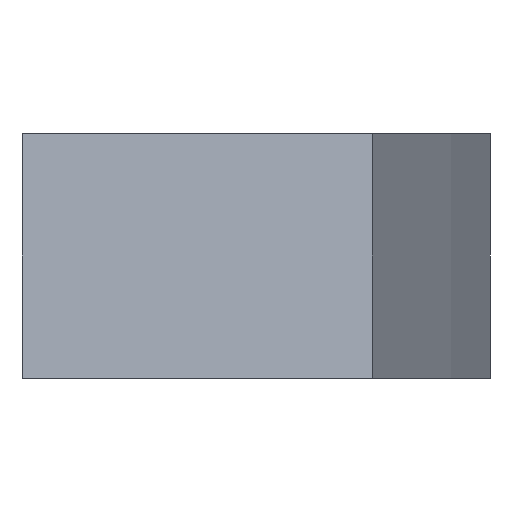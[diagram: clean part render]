
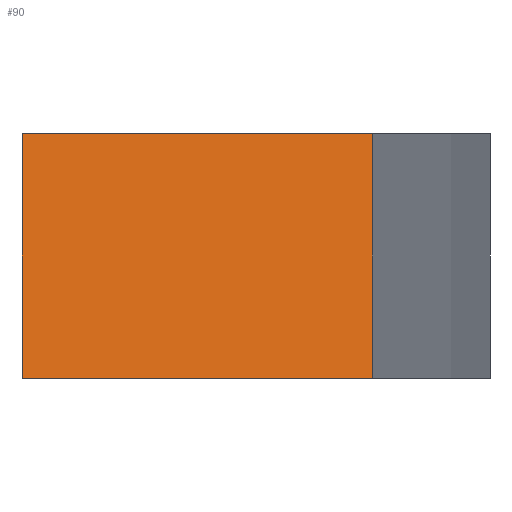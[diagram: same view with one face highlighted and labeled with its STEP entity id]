
A CAD part, left-side view. The second image highlights one B-rep face of the part: STEP entity #90.
In plain terms, the highlighted planar face has unit normal (-0.957, -0.291, 0).
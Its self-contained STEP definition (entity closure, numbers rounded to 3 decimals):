
#90 = ADVANCED_FACE( '', ( #126 ), #127, .T. );
#126 = FACE_OUTER_BOUND( '', #164, .T. );
#127 = PLANE( '', #165 );
#164 = EDGE_LOOP( '', ( #275, #276, #277, #278 ) );
#165 = AXIS2_PLACEMENT_3D( '', #279, #280, #281 );
#275 = ORIENTED_EDGE( '', *, *, #348, .T. );
#276 = ORIENTED_EDGE( '', *, *, #323, .F. );
#277 = ORIENTED_EDGE( '', *, *, #349, .F. );
#278 = ORIENTED_EDGE( '', *, *, #346, .T. );
#279 = CARTESIAN_POINT( '', ( -25., 0., 7.5 ) );
#280 = DIRECTION( '', ( -0.957, -0.291, 0. ) );
#281 = DIRECTION( '', ( -0.291, 0.957, 0. ) );
#323 = EDGE_CURVE( '', #375, #370, #377, .T. );
#346 = EDGE_CURVE( '', #415, #413, #416, .T. );
#348 = EDGE_CURVE( '', #413, #370, #418, .T. );
#349 = EDGE_CURVE( '', #415, #375, #419, .T. );
#370 = VERTEX_POINT( '', #444 );
#375 = VERTEX_POINT( '', #450 );
#377 = LINE( '', #452, #453 );
#413 = VERTEX_POINT( '', #504 );
#415 = VERTEX_POINT( '', #507 );
#416 = LINE( '', #508, #509 );
#418 = LINE( '', #512, #513 );
#419 = LINE( '', #514, #515 );
#444 = CARTESIAN_POINT( '', ( -18.477, -21.477, -7.5 ) );
#450 = CARTESIAN_POINT( '', ( -18.477, -21.477, 7.5 ) );
#452 = CARTESIAN_POINT( '', ( -18.477, -21.477, 7.5 ) );
#453 = VECTOR( '', #551, 1. );
#504 = CARTESIAN_POINT( '', ( -25., 0., -7.5 ) );
#507 = CARTESIAN_POINT( '', ( -25., 0., 7.5 ) );
#508 = CARTESIAN_POINT( '', ( -25., 0., 7.5 ) );
#509 = VECTOR( '', #586, 1. );
#512 = CARTESIAN_POINT( '', ( -25., 0., -7.5 ) );
#513 = VECTOR( '', #588, 1. );
#514 = CARTESIAN_POINT( '', ( -25., 0., 7.5 ) );
#515 = VECTOR( '', #589, 1. );
#551 = DIRECTION( '', ( 0., 0., -1. ) );
#586 = DIRECTION( '', ( 0., 0., -1. ) );
#588 = DIRECTION( '', ( 0.291, -0.957, 0. ) );
#589 = DIRECTION( '', ( 0.291, -0.957, 0. ) );
